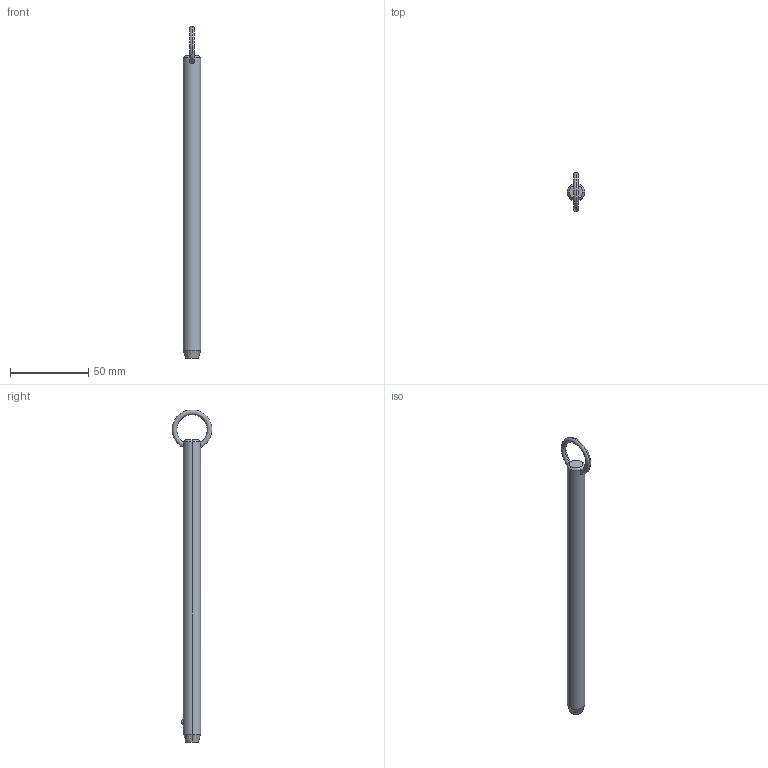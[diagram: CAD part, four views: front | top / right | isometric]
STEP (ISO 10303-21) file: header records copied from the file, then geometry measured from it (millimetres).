
FILE_DESCRIPTION (( 'STEP AP203' ), '1' );
FILE_NAME ('P1250.050-680.step', '2019-07-29T20:42:53', ( '' ), ( '' ), 'SwSTEP 2.0', 'SolidWorks 2017', '' );
FILE_SCHEMA (( 'CONFIG_CONTROL_DESIGN' ));
Length unit declared in the file: millimetre
Products named in the file (1): P1250.050-680
Bounding box: 11.1 x 25.32 x 212.35 mm (x, y, z)
Volume: 18997.8 mm3; surface area: 7396.8 mm2
Topology: 1 solids, 1 shells, 12 faces, 28 edges, 17 vertices
Faces by surface type: cone 4, torus 2, sphere 2, cylinder 2, plane 2
Entity records: 523 total; most frequent: CARTESIAN_POINT 190, DIRECTION 56, ORIENTED_EDGE 48, AXIS2_PLACEMENT_3D 25, EDGE_CURVE 24, VERTEX_POINT 15, EDGE_LOOP 15, ADVANCED_FACE 12
